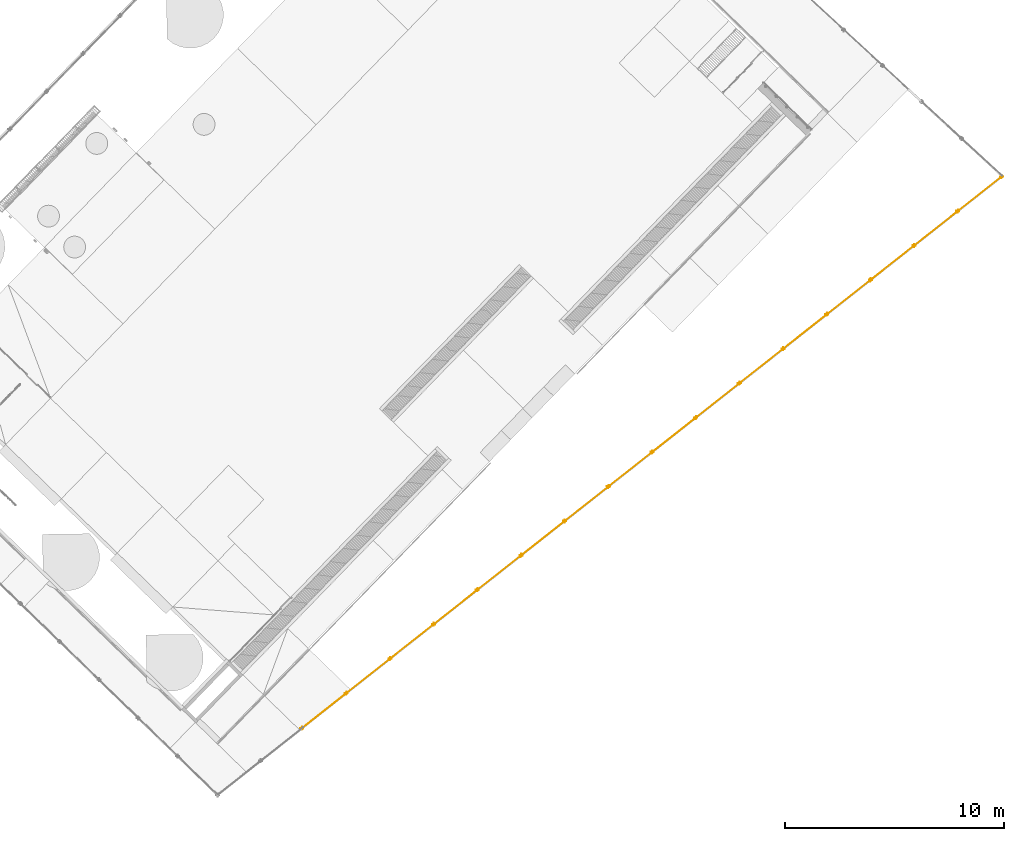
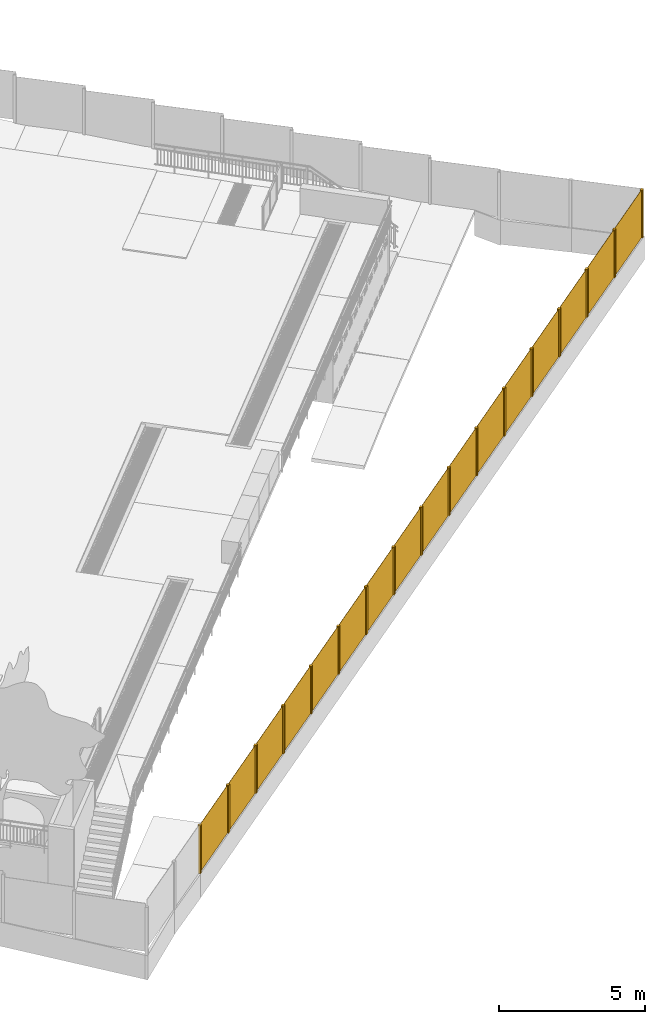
# One storey, part 26 of 37: 1 railing.
"""IFC2X3 building model written with IfcOpenShell, lengths in centimetres."""

from ifc_helpers import new_model, entity, si_unit, converted_unit, derived_unit, direction, frame, frame_2d, origin, origin_2d_with_axis, place, context, subcontext, project, spatial, rectangle, extrude, material, material_list, element, save


model = new_model("IFC2X3")

# Units and contexts
model_context = context("Model", 3, precision=0.001, world=origin(), true_north=direction((0.717475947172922, 0.696583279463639)))
body_context = subcontext(model_context, "Body", "Model", "MODEL_VIEW")
ifc_project = project(units=[si_unit("LENGTHUNIT", "METRE", prefix="CENTI"), si_unit("AREAUNIT", "SQUARE_METRE"), si_unit("VOLUMEUNIT", "CUBIC_METRE"), converted_unit("PLANEANGLEUNIT", "DEGREE", entity("IfcRatioMeasure", 0.0174532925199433), si_unit("PLANEANGLEUNIT", "RADIAN"), dimensions=[0, 0, 0, 0, 0, 0, 0]), si_unit("MASSUNIT", "GRAM", prefix="KILO"), derived_unit("MASSDENSITYUNIT", [(si_unit("MASSUNIT", "GRAM", prefix="KILO"), 1), (si_unit("LENGTHUNIT", "METRE"), -3)]), si_unit("TIMEUNIT", "SECOND"), si_unit("FREQUENCYUNIT", "HERTZ"), si_unit("THERMODYNAMICTEMPERATUREUNIT", "DEGREE_CELSIUS"), derived_unit("THERMALTRANSMITTANCEUNIT", [(si_unit("MASSUNIT", "GRAM", prefix="KILO"), 1), (si_unit("THERMODYNAMICTEMPERATUREUNIT", "KELVIN"), -1), (si_unit("TIMEUNIT", "SECOND"), -3)]), derived_unit("VOLUMETRICFLOWRATEUNIT", [(si_unit("LENGTHUNIT", "METRE"), 3), (si_unit("TIMEUNIT", "SECOND"), -1)]), si_unit("ELECTRICCURRENTUNIT", "AMPERE"), si_unit("ELECTRICVOLTAGEUNIT", "VOLT"), si_unit("POWERUNIT", "WATT"), si_unit("FORCEUNIT", "NEWTON", prefix="KILO"), si_unit("ILLUMINANCEUNIT", "LUX"), si_unit("LUMINOUSFLUXUNIT", "LUMEN"), si_unit("LUMINOUSINTENSITYUNIT", "CANDELA"), derived_unit("USERDEFINED", [(si_unit("MASSUNIT", "GRAM", prefix="KILO"), -1), (si_unit("LENGTHUNIT", "METRE"), -2), (si_unit("TIMEUNIT", "SECOND"), 3), (si_unit("LUMINOUSFLUXUNIT", "LUMEN"), 1)]), derived_unit("LINEARVELOCITYUNIT", [(si_unit("LENGTHUNIT", "METRE"), 1), (si_unit("TIMEUNIT", "SECOND"), -1)]), si_unit("PRESSUREUNIT", "PASCAL"), derived_unit("USERDEFINED", [(si_unit("LENGTHUNIT", "METRE"), -2), (si_unit("MASSUNIT", "GRAM", prefix="KILO"), 1), (si_unit("TIMEUNIT", "SECOND"), -2)])], contexts=[model_context])

# Site, building, storey
site_placement = place(None, frame((0.0, 0.0, 0.0), z_axis=(0.0, 0.0, 1.0), x_axis=(0.696583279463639, 0.717475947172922, 0.0)))
site = spatial("IfcSite", under=ifc_project, at=site_placement, Name="Surface", CompositionType="ELEMENT")
building_placement = place(site_placement, origin())
building = spatial("IfcBuilding", under=site, at=building_placement, CompositionType="ELEMENT")
storey_placement = place(building_placement, origin())
storey = spatial("IfcBuildingStorey", under=building, at=storey_placement, Name="Nivel 0.00", CompositionType="ELEMENT", Elevation=0.0)

# Railing
ifc_material_1 = material(Name="REJA_MALLA_ACMA")
ifc_material_2 = material(Name="Aluminum")
ifc_material_list = material_list([ifc_material_1, ifc_material_2])
railing_placement = place(storey_placement, origin())
element("IfcRailing", 1, at=railing_placement, inside=storey, material=ifc_material_list, Name="Railing:REJA_PERIMETRAL_2000mm", ObjectType="Railing:REJA_PERIMETRAL_2000mm", PredefinedType="NOTDEFINED", context=body_context, shape_type="SweptSolid", body=[
    extrude(rectangle(XDim=0.999999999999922, YDim=250.0, at=frame_2d((-1.06581410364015e-13, -1.4210854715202e-14), x_axis=(1.0, 0.0))), frame((-1762.30749595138, -1816.86786867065, -90.0), z_axis=(0.0, 0.0, 1.0), x_axis=(0.13220397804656, 0.991222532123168, 0.0)), (0.0, 0.0, 1.0), 200.0),
    extrude(rectangle(XDim=10.0, YDim=10.0, at=frame_2d((-2.1493917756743e-13, -2.88657986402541e-14), x_axis=(1.0, 0.0))), frame((-1636.16678220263, -1833.69184473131, -90.0), z_axis=(0.0, 0.0, 1.0), x_axis=(0.132203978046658, 0.991222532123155, 0.0)), (0.0, 0.0, 1.0), 200.0),
    extrude(rectangle(XDim=0.999999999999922, YDim=250.0, at=frame_2d((-1.06581410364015e-13, -1.4210854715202e-14), x_axis=(1.0, 0.0))), frame((-1510.02606845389, -1850.51582079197, -90.0), z_axis=(0.0, 0.0, 1.0), x_axis=(0.13220397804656, 0.991222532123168, 0.0)), (0.0, 0.0, 1.0), 200.0),
    extrude(rectangle(XDim=10.0, YDim=10.0, at=origin_2d_with_axis()), frame((-1383.88535470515, -1867.33979685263, -90.0), z_axis=(0.0, 0.0, 1.0), x_axis=(0.132203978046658, 0.991222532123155, 0.0)), (0.0, 0.0, 1.0), 200.0),
    extrude(rectangle(XDim=0.999999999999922, YDim=250.0, at=frame_2d((1.06581410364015e-13, 1.4210854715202e-14), x_axis=(1.0, 0.0))), frame((-1257.7446409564, -1884.1637729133, -90.0), z_axis=(0.0, 0.0, 1.0), x_axis=(0.13220397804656, 0.991222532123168, 0.0)), (0.0, 0.0, 1.0), 200.0),
    extrude(rectangle(XDim=10.0, YDim=10.0, at=frame_2d((-2.1493917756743e-13, -2.88657986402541e-14), x_axis=(1.0, 0.0))), frame((-1131.60392720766, -1900.98774897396, -90.0), z_axis=(0.0, 0.0, 1.0), x_axis=(0.132203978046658, 0.991222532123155, 0.0)), (0.0, 0.0, 1.0), 200.0),
    extrude(rectangle(XDim=0.999999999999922, YDim=250.0, at=frame_2d((-1.06581410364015e-13, -1.4210854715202e-14), x_axis=(1.0, 0.0))), frame((-1005.46321345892, -1917.81172503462, -90.0), z_axis=(0.0, 0.0, 1.0), x_axis=(0.13220397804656, 0.991222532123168, 0.0)), (0.0, 0.0, 1.0), 200.0),
    extrude(rectangle(XDim=10.0, YDim=10.0, at=frame_2d((-2.07389660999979e-13, -8.26005930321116e-14), x_axis=(1.0, 0.0))), frame((-879.322499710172, -1934.63570109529, -90.0), z_axis=(0.0, 0.0, 1.0), x_axis=(0.132203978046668, 0.991222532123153, 0.0)), (0.0, 0.0, 1.0), 200.0),
    extrude(rectangle(XDim=1.00000000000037, YDim=250.0, at=frame_2d((1.06636921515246e-13, 7.105427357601e-15), x_axis=(1.0, 0.0))), frame((-753.181785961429, -1951.45967715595, -90.0), z_axis=(0.0, 0.0, 1.0), x_axis=(0.132203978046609, 0.991222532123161, 0.0)), (0.0, 0.0, 1.0), 200.0),
    extrude(rectangle(XDim=9.99999999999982, YDim=9.99999999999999, at=frame_2d((-2.07389660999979e-13, -8.21565038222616e-14), x_axis=(1.0, 0.0))), frame((-627.041072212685, -1968.28365321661, -90.0), z_axis=(0.0, 0.0, 1.0), x_axis=(0.132203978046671, 0.991222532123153, 0.0)), (0.0, 0.0, 1.0), 200.0),
    extrude(rectangle(XDim=0.999999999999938, YDim=250.0, at=origin_2d_with_axis()), frame((-500.900358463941, -1985.10762927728, -90.0), z_axis=(0.0, 0.0, 1.0), x_axis=(0.132203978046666, 0.991222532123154, 0.0)), (0.0, 0.0, 1.0), 200.0),
    extrude(rectangle(XDim=9.99999999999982, YDim=9.99999999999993, at=frame_2d((2.1449508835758e-13, 2.8421709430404e-14), x_axis=(1.0, 0.0))), frame((-374.759644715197, -2001.93160533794, -90.0), z_axis=(0.0, 0.0, 1.0), x_axis=(0.132203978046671, 0.991222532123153, 0.0)), (0.0, 0.0, 1.0), 200.0),
    extrude(rectangle(XDim=0.999999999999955, YDim=250.0, at=origin_2d_with_axis()), frame((-248.618930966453, -2018.7555813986, -90.0), z_axis=(0.0, 0.0, 1.0), x_axis=(0.132203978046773, 0.99122253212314, 0.0)), (0.0, 0.0, 1.0), 200.0),
    extrude(rectangle(XDim=9.99999999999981, YDim=9.99999999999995, at=frame_2d((2.1405099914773e-13, 3.5527136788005e-14), x_axis=(1.0, 0.0))), frame((-122.478217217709, -2035.57955745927, -90.0), z_axis=(0.0, 0.0, 1.0), x_axis=(0.13220397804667, 0.991222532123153, 0.0)), (0.0, 0.0, 1.0), 200.0),
    extrude(rectangle(XDim=0.999999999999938, YDim=250.0, at=frame_2d((1.72084568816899e-15, -1.4210854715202e-14), x_axis=(1.0, 0.0))), frame((3.66249653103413, -2052.40353351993, -90.0), z_axis=(0.0, 0.0, 1.0), x_axis=(0.132203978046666, 0.991222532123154, 0.0)), (0.0, 0.0, 1.0), 200.0),
    extrude(rectangle(XDim=9.99999999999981, YDim=9.99999999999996, at=frame_2d((2.1405099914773e-13, 2.88657986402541e-14), x_axis=(1.0, 0.0))), frame((129.803210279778, -2069.22750958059, -90.0), z_axis=(0.0, 0.0, 1.0), x_axis=(0.132203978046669, 0.991222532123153, 0.0)), (0.0, 0.0, 1.0), 200.0),
    extrude(rectangle(XDim=0.999999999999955, YDim=250.0, at=frame_2d((-1.69309011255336e-15, 1.4210854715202e-14), x_axis=(1.0, 0.0))), frame((255.943924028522, -2086.05148564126, -90.0), z_axis=(0.0, 0.0, 1.0), x_axis=(0.132203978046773, 0.99122253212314, 0.0)), (0.0, 0.0, 1.0), 200.0),
    extrude(rectangle(XDim=9.99999999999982, YDim=9.99999999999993, at=frame_2d((2.1449508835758e-13, 2.8421709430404e-14), x_axis=(1.0, 0.0))), frame((382.084637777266, -2102.87546170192, -90.0), z_axis=(0.0, 0.0, 1.0), x_axis=(0.132203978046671, 0.991222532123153, 0.0)), (0.0, 0.0, 1.0), 200.0),
    extrude(rectangle(XDim=0.999999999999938, YDim=250.0, at=origin_2d_with_axis()), frame((508.225351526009, -2119.69943776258, -90.0), z_axis=(0.0, 0.0, 1.0), x_axis=(0.132203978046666, 0.991222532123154, 0.0)), (0.0, 0.0, 1.0), 200.0),
    extrude(rectangle(XDim=9.99999999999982, YDim=9.99999999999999, at=frame_2d((2.21600515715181e-13, -2.53130849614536e-14), x_axis=(1.0, 0.0))), frame((634.366065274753, -2136.52341382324, -90.0), z_axis=(0.0, 0.0, 1.0), x_axis=(0.132203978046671, 0.991222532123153, 0.0)), (0.0, 0.0, 1.0), 200.0),
    extrude(rectangle(XDim=0.999999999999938, YDim=250.0, at=origin_2d_with_axis()), frame((760.506779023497, -2153.34738988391, -90.0), z_axis=(0.0, 0.0, 1.0), x_axis=(0.132203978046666, 0.991222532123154, 0.0)), (0.0, 0.0, 1.0), 200.0),
    extrude(rectangle(XDim=9.99999999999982, YDim=9.99999999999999, at=frame_2d((2.07389660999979e-13, 8.21565038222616e-14), x_axis=(1.0, 0.0))), frame((886.647492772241, -2170.17136594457, -90.0), z_axis=(0.0, 0.0, 1.0), x_axis=(0.132203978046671, 0.991222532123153, 0.0)), (0.0, 0.0, 1.0), 200.0),
    extrude(rectangle(XDim=0.999999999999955, YDim=250.0, at=origin_2d_with_axis()), frame((1012.78820652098, -2186.99534200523, -90.0), z_axis=(0.0, 0.0, 1.0), x_axis=(0.132203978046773, 0.99122253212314, 0.0)), (0.0, 0.0, 1.0), 200.0),
    extrude(rectangle(XDim=9.9999999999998, YDim=9.99999999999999, at=frame_2d((2.1493917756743e-13, 2.8421709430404e-14), x_axis=(1.0, 0.0))), frame((1138.92892026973, -2203.8193180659, -90.0), z_axis=(0.0, 0.0, 1.0), x_axis=(0.132203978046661, 0.991222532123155, 0.0)), (0.0, 0.0, 1.0), 200.0),
    extrude(rectangle(XDim=0.999999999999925, YDim=250.0, at=frame_2d((2.87547763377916e-14, -2.20268248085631e-13), x_axis=(1.0, 0.0))), frame((1265.06963401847, -2220.64329412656, -90.0), z_axis=(0.0, 0.0, 1.0), x_axis=(0.13220397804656, 0.991222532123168, 0.0)), (0.0, 0.0, 1.0), 200.0),
    extrude(rectangle(XDim=9.9999999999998, YDim=9.99999999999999, at=frame_2d((2.43360886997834e-13, -1.86073378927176e-13), x_axis=(1.0, 0.0))), frame((1391.21034776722, -2237.46727018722, -90.0), z_axis=(0.0, 0.0, 1.0), x_axis=(0.132203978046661, 0.991222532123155, 0.0)), (0.0, 0.0, 1.0), 200.0),
    extrude(rectangle(XDim=0.999999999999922, YDim=250.0, at=origin_2d_with_axis()), frame((1517.35106151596, -2254.29124624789, -90.0), z_axis=(0.0, 0.0, 1.0), x_axis=(0.13220397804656, 0.991222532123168, 0.0)), (0.0, 0.0, 1.0), 200.0),
    extrude(rectangle(XDim=9.9999999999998, YDim=9.99999999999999, at=frame_2d((2.43360886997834e-13, -1.86073378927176e-13), x_axis=(1.0, 0.0))), frame((1643.4917752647, -2271.11522230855, -90.0), z_axis=(0.0, 0.0, 1.0), x_axis=(0.132203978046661, 0.991222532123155, 0.0)), (0.0, 0.0, 1.0), 200.0),
    extrude(rectangle(XDim=0.999999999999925, YDim=250.0, at=frame_2d((2.87547763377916e-14, -2.20268248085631e-13), x_axis=(1.0, 0.0))), frame((1769.63248901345, -2287.93919836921, -90.0), z_axis=(0.0, 0.0, 1.0), x_axis=(0.13220397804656, 0.991222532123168, 0.0)), (0.0, 0.0, 1.0), 200.0),
    extrude(rectangle(XDim=9.9999999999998, YDim=9.99999999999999, at=frame_2d((-2.43360886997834e-13, 1.86073378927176e-13), x_axis=(1.0, 0.0))), frame((1895.77320276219, -2304.76317442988, -90.0), z_axis=(0.0, 0.0, 1.0), x_axis=(0.132203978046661, 0.991222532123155, 0.0)), (0.0, 0.0, 1.0), 200.0),
    extrude(rectangle(XDim=0.999999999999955, YDim=250.0, at=frame_2d((1.35447209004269e-14, -1.06581410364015e-13), x_axis=(1.0, 0.0))), frame((2021.91391651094, -2321.58715049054, -90.0), z_axis=(0.0, 0.0, 1.0), x_axis=(0.132203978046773, 0.99122253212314, 0.0)), (0.0, 0.0, 1.0), 200.0),
    extrude(rectangle(XDim=10.0, YDim=10.0, at=frame_2d((-2.43804976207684e-13, 1.86073378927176e-13), x_axis=(1.0, 0.0))), frame((-1893.40432236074, -1799.38287271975, -90.0), z_axis=(0.0, 0.0, 1.0), x_axis=(0.132203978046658, 0.991222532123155, 0.0)), (0.0, 0.0, 1.0), 200.0),
    extrude(rectangle(XDim=9.99999999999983, YDim=9.99999999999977, at=frame_2d((2.42916797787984e-13, -1.86961557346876e-13), x_axis=(1.0, 0.0))), frame((2148.05463025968, -2338.4111265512, -90.0), z_axis=(0.0, 0.0, 1.0), x_axis=(0.132203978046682, 0.991222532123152, 0.0)), (0.0, 0.0, 1.0), 200.0),
])

save(model, "model.ifc")
